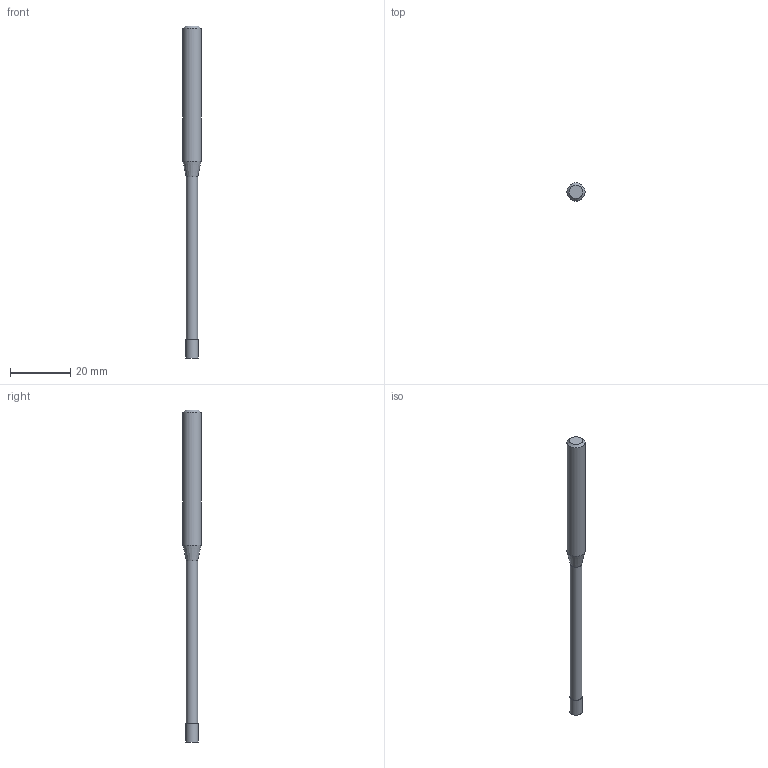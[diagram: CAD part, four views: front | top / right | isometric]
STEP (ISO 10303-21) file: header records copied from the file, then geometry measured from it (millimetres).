
FILE_DESCRIPTION((''),'2;1');
FILE_NAME('C:\Users\nsx150\AppData\Local\Temp\Mastercam 2021\17T8Q8S9EB\TEMP.step','2021-04-21T14:28:53',(''),(''),'STEP Write','Mastercam 2021 ... CNC Software, Inc.','');
FILE_SCHEMA(('AUTOMOTIVE_DESIGN'));
Length unit declared in the file: millimetre
Products named in the file (1): None
Bounding box: 6 x 6 x 110 mm (x, y, z)
Volume: 2048.9 mm3; surface area: 1701.5 mm2
Topology: 2 solids, 2 shells, 9 faces, 12 edges, 7 vertices
Faces by surface type: plane 4, cylinder 3, cone 2
Full cylindrical faces by diameter (mm): 3.8 x1, 4 x1, 6 x1
Entity records: 211 total; most frequent: DIRECTION 36, CARTESIAN_POINT 25, AXIS2_PLACEMENT_3D 18, ORIENTED_EDGE 14, EDGE_LOOP 14, STYLED_ITEM 12, ADVANCED_FACE 9, FACE_BOUND 8
